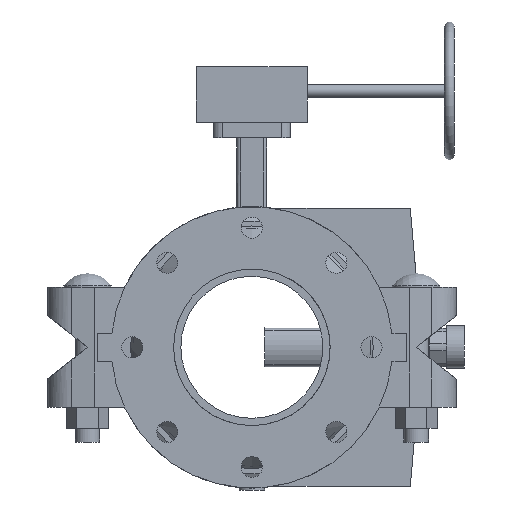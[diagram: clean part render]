
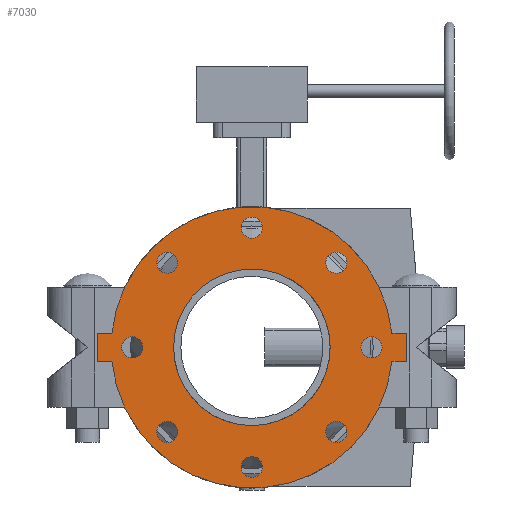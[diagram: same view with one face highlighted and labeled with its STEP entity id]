
A CAD part, front view. The second image highlights one B-rep face of the part: STEP entity #7030.
In plain terms, the highlighted planar face has unit normal (0, -1, 0) as drawn and (0, 0, -1) by its records, which use the part's own axes.
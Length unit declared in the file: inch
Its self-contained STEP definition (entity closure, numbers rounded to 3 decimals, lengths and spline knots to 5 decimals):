
#187=FACE_BOUND('',#893,.T.);
#188=FACE_BOUND('',#894,.T.);
#189=FACE_BOUND('',#895,.T.);
#190=FACE_BOUND('',#896,.T.);
#191=FACE_BOUND('',#897,.T.);
#192=FACE_BOUND('',#898,.T.);
#193=FACE_BOUND('',#899,.T.);
#194=FACE_BOUND('',#900,.T.);
#195=FACE_BOUND('',#901,.T.);
#274=PLANE('',#7635);
#509=FACE_OUTER_BOUND('',#892,.T.);
#892=EDGE_LOOP('',(#4518,#4519,#4520,#4521,#4522,#4523,#4524,#4525));
#893=EDGE_LOOP('',(#4526));
#894=EDGE_LOOP('',(#4527));
#895=EDGE_LOOP('',(#4528));
#896=EDGE_LOOP('',(#4529));
#897=EDGE_LOOP('',(#4530));
#898=EDGE_LOOP('',(#4531));
#899=EDGE_LOOP('',(#4532));
#900=EDGE_LOOP('',(#4533));
#901=EDGE_LOOP('',(#4534,#4535));
#1362=LINE('',#10674,#1882);
#1363=LINE('',#10676,#1883);
#1364=LINE('',#10678,#1884);
#1365=LINE('',#10682,#1885);
#1366=LINE('',#10684,#1886);
#1367=LINE('',#10685,#1887);
#1882=VECTOR('',#8503,0.3937);
#1883=VECTOR('',#8504,0.3937);
#1884=VECTOR('',#8505,0.3937);
#1885=VECTOR('',#8508,0.3937);
#1886=VECTOR('',#8509,0.3937);
#1887=VECTOR('',#8510,0.3937);
#2395=CIRCLE('',#7613,0.375);
#2397=CIRCLE('',#7616,0.375);
#2399=CIRCLE('',#7619,0.375);
#2401=CIRCLE('',#7622,0.375);
#2403=CIRCLE('',#7625,0.375);
#2405=CIRCLE('',#7628,0.375);
#2407=CIRCLE('',#7631,0.375);
#2409=CIRCLE('',#7634,0.375);
#2410=CIRCLE('',#7636,5.);
#2411=CIRCLE('',#7637,5.);
#2412=CIRCLE('',#7638,2.7815);
#2413=CIRCLE('',#7639,2.7815);
#2799=VERTEX_POINT('',#10624);
#2801=VERTEX_POINT('',#10630);
#2803=VERTEX_POINT('',#10636);
#2805=VERTEX_POINT('',#10642);
#2807=VERTEX_POINT('',#10648);
#2809=VERTEX_POINT('',#10654);
#2811=VERTEX_POINT('',#10660);
#2813=VERTEX_POINT('',#10666);
#2814=VERTEX_POINT('',#10670);
#2815=VERTEX_POINT('',#10671);
#2816=VERTEX_POINT('',#10673);
#2817=VERTEX_POINT('',#10675);
#2818=VERTEX_POINT('',#10677);
#2819=VERTEX_POINT('',#10679);
#2820=VERTEX_POINT('',#10681);
#2821=VERTEX_POINT('',#10683);
#2822=VERTEX_POINT('',#10686);
#2823=VERTEX_POINT('',#10687);
#3480=EDGE_CURVE('',#2799,#2799,#2395,.T.);
#3483=EDGE_CURVE('',#2801,#2801,#2397,.T.);
#3486=EDGE_CURVE('',#2803,#2803,#2399,.T.);
#3489=EDGE_CURVE('',#2805,#2805,#2401,.T.);
#3492=EDGE_CURVE('',#2807,#2807,#2403,.T.);
#3495=EDGE_CURVE('',#2809,#2809,#2405,.T.);
#3498=EDGE_CURVE('',#2811,#2811,#2407,.T.);
#3501=EDGE_CURVE('',#2813,#2813,#2409,.T.);
#3502=EDGE_CURVE('',#2814,#2815,#2410,.T.);
#3503=EDGE_CURVE('',#2815,#2816,#1362,.T.);
#3504=EDGE_CURVE('',#2816,#2817,#1363,.T.);
#3505=EDGE_CURVE('',#2817,#2818,#1364,.T.);
#3506=EDGE_CURVE('',#2818,#2819,#2411,.T.);
#3507=EDGE_CURVE('',#2819,#2820,#1365,.T.);
#3508=EDGE_CURVE('',#2820,#2821,#1366,.T.);
#3509=EDGE_CURVE('',#2821,#2814,#1367,.T.);
#3510=EDGE_CURVE('',#2822,#2823,#2412,.T.);
#3511=EDGE_CURVE('',#2823,#2822,#2413,.T.);
#4518=ORIENTED_EDGE('',*,*,#3502,.T.);
#4519=ORIENTED_EDGE('',*,*,#3503,.T.);
#4520=ORIENTED_EDGE('',*,*,#3504,.T.);
#4521=ORIENTED_EDGE('',*,*,#3505,.T.);
#4522=ORIENTED_EDGE('',*,*,#3506,.T.);
#4523=ORIENTED_EDGE('',*,*,#3507,.T.);
#4524=ORIENTED_EDGE('',*,*,#3508,.T.);
#4525=ORIENTED_EDGE('',*,*,#3509,.T.);
#4526=ORIENTED_EDGE('',*,*,#3480,.T.);
#4527=ORIENTED_EDGE('',*,*,#3483,.T.);
#4528=ORIENTED_EDGE('',*,*,#3486,.T.);
#4529=ORIENTED_EDGE('',*,*,#3489,.T.);
#4530=ORIENTED_EDGE('',*,*,#3492,.T.);
#4531=ORIENTED_EDGE('',*,*,#3495,.T.);
#4532=ORIENTED_EDGE('',*,*,#3498,.T.);
#4533=ORIENTED_EDGE('',*,*,#3501,.T.);
#4534=ORIENTED_EDGE('',*,*,#3510,.T.);
#4535=ORIENTED_EDGE('',*,*,#3511,.T.);
#7030=ADVANCED_FACE('',(#509,#187,#188,#189,#190,#191,#192,#193,#194,#195),
#274,.T.);
#7613=AXIS2_PLACEMENT_3D('',#10626,#8448,#8449);
#7616=AXIS2_PLACEMENT_3D('',#10632,#8455,#8456);
#7619=AXIS2_PLACEMENT_3D('',#10638,#8462,#8463);
#7622=AXIS2_PLACEMENT_3D('',#10644,#8469,#8470);
#7625=AXIS2_PLACEMENT_3D('',#10650,#8476,#8477);
#7628=AXIS2_PLACEMENT_3D('',#10656,#8483,#8484);
#7631=AXIS2_PLACEMENT_3D('',#10662,#8490,#8491);
#7634=AXIS2_PLACEMENT_3D('',#10668,#8497,#8498);
#7635=AXIS2_PLACEMENT_3D('',#10669,#8499,#8500);
#7636=AXIS2_PLACEMENT_3D('',#10672,#8501,#8502);
#7637=AXIS2_PLACEMENT_3D('',#10680,#8506,#8507);
#7638=AXIS2_PLACEMENT_3D('',#10688,#8511,#8512);
#7639=AXIS2_PLACEMENT_3D('',#10689,#8513,#8514);
#8448=DIRECTION('center_axis',(0.,0.,1.));
#8449=DIRECTION('ref_axis',(-0.707,0.707,0.));
#8455=DIRECTION('center_axis',(0.,0.,1.));
#8456=DIRECTION('ref_axis',(0.,1.,0.));
#8462=DIRECTION('center_axis',(0.,0.,1.));
#8463=DIRECTION('ref_axis',(0.707,0.707,0.));
#8469=DIRECTION('center_axis',(0.,0.,1.));
#8470=DIRECTION('ref_axis',(1.,0.,0.));
#8476=DIRECTION('center_axis',(0.,0.,1.));
#8477=DIRECTION('ref_axis',(0.707,-0.707,0.));
#8483=DIRECTION('center_axis',(0.,0.,1.));
#8484=DIRECTION('ref_axis',(0.,-1.,0.));
#8490=DIRECTION('center_axis',(0.,0.,1.));
#8491=DIRECTION('ref_axis',(-0.707,-0.707,0.));
#8497=DIRECTION('center_axis',(0.,0.,1.));
#8498=DIRECTION('ref_axis',(-1.,0.,0.));
#8499=DIRECTION('center_axis',(0.,0.,-1.));
#8500=DIRECTION('ref_axis',(-1.,0.,0.));
#8501=DIRECTION('center_axis',(0.,0.,-1.));
#8502=DIRECTION('ref_axis',(-1.,0.,0.));
#8503=DIRECTION('',(0.,1.,0.));
#8504=DIRECTION('',(1.,0.,0.));
#8505=DIRECTION('',(0.,-1.,0.));
#8506=DIRECTION('center_axis',(0.,0.,-1.));
#8507=DIRECTION('ref_axis',(-1.,0.,0.));
#8508=DIRECTION('',(0.,-1.,0.));
#8509=DIRECTION('',(-1.,0.,0.));
#8510=DIRECTION('',(0.,1.,0.));
#8511=DIRECTION('center_axis',(0.,0.,1.));
#8512=DIRECTION('ref_axis',(-1.,0.,0.));
#8513=DIRECTION('center_axis',(0.,0.,1.));
#8514=DIRECTION('ref_axis',(-1.,0.,0.));
#10624=CARTESIAN_POINT('',(-2.74004,2.74004,-0.5));
#10626=CARTESIAN_POINT('Origin',(-3.0052,3.0052,-0.5));
#10630=CARTESIAN_POINT('',(0.,3.875,-0.5));
#10632=CARTESIAN_POINT('Origin',(0.,4.25,-0.5));
#10636=CARTESIAN_POINT('',(2.74004,2.74004,-0.5));
#10638=CARTESIAN_POINT('Origin',(3.0052,3.0052,-0.5));
#10642=CARTESIAN_POINT('',(3.875,0.,-0.5));
#10644=CARTESIAN_POINT('Origin',(4.25,0.,-0.5));
#10648=CARTESIAN_POINT('',(2.74004,-2.74004,-0.5));
#10650=CARTESIAN_POINT('Origin',(3.0052,-3.0052,-0.5));
#10654=CARTESIAN_POINT('',(0.,-3.875,-0.5));
#10656=CARTESIAN_POINT('Origin',(0.,-4.25,-0.5));
#10660=CARTESIAN_POINT('',(-2.74004,-2.74004,-0.5));
#10662=CARTESIAN_POINT('Origin',(-3.0052,-3.0052,-0.5));
#10666=CARTESIAN_POINT('',(-3.875,0.,-0.5));
#10668=CARTESIAN_POINT('Origin',(-4.25,0.,-0.5));
#10669=CARTESIAN_POINT('Origin',(0.,0.,-0.5));
#10670=CARTESIAN_POINT('',(-0.5,-4.97494,-0.5));
#10671=CARTESIAN_POINT('',(-0.5,4.97494,-0.5));
#10672=CARTESIAN_POINT('Origin',(0.,0.,-0.5));
#10673=CARTESIAN_POINT('',(-0.5,5.5,-0.5));
#10674=CARTESIAN_POINT('',(-0.5,-5.5,-0.5));
#10675=CARTESIAN_POINT('',(0.5,5.5,-0.5));
#10676=CARTESIAN_POINT('',(-0.5,5.5,-0.5));
#10677=CARTESIAN_POINT('',(0.5,4.97494,-0.5));
#10678=CARTESIAN_POINT('',(0.5,5.5,-0.5));
#10679=CARTESIAN_POINT('',(0.5,-4.97494,-0.5));
#10680=CARTESIAN_POINT('Origin',(0.,0.,-0.5));
#10681=CARTESIAN_POINT('',(0.5,-5.5,-0.5));
#10682=CARTESIAN_POINT('',(0.5,5.5,-0.5));
#10683=CARTESIAN_POINT('',(-0.5,-5.5,-0.5));
#10684=CARTESIAN_POINT('',(0.5,-5.5,-0.5));
#10685=CARTESIAN_POINT('',(-0.5,-5.5,-0.5));
#10686=CARTESIAN_POINT('',(0.5,2.73619,-0.5));
#10687=CARTESIAN_POINT('',(2.7815,0.,-0.5));
#10688=CARTESIAN_POINT('Origin',(0.,0.,-0.5));
#10689=CARTESIAN_POINT('Origin',(0.,0.,-0.5));
